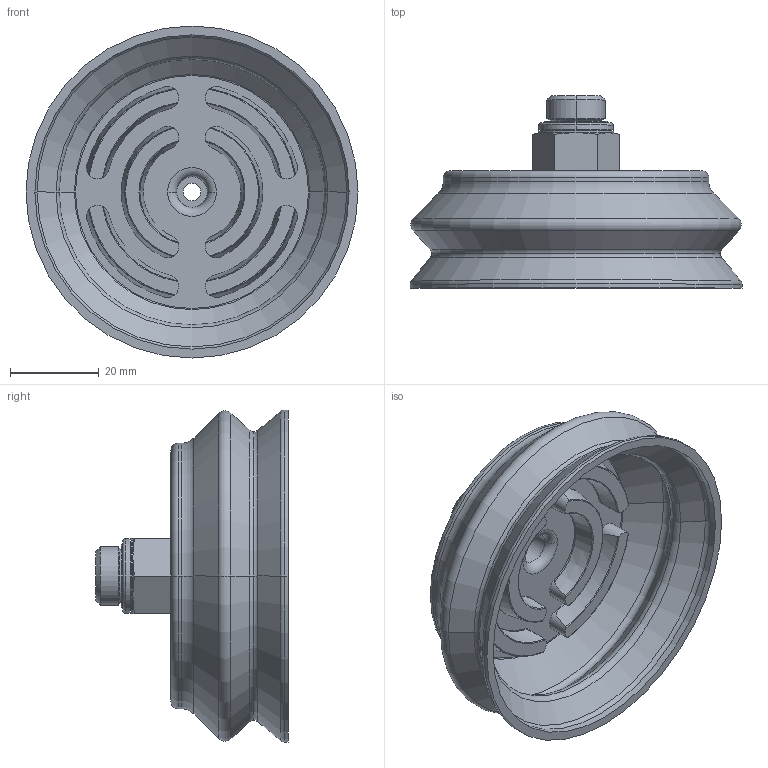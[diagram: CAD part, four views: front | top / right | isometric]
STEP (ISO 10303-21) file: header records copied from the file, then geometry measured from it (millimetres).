
FILE_DESCRIPTION (( 'STEP AP203' ), '1' );
FILE_NAME ('ZASB-75-1_4-PU.STEP', '2022-03-14T17:57:04', ( '' ), ( '' ), 'SwSTEP 2.0', 'SolidWorks 2019', '' );
FILE_SCHEMA (( 'CONFIG_CONTROL_DESIGN' ));
Length unit declared in the file: millimetre
Products named in the file (1): ZASB-75-1_4-PU
Bounding box: 75 x 43.5 x 75 mm (x, y, z)
Volume: 37581.1 mm3; surface area: 21062.3 mm2
Topology: 1 solids, 1 shells, 156 faces, 361 edges, 221 vertices
Faces by surface type: cylinder 52, torus 44, cone 38, plane 22
Entity records: 4931 total; most frequent: CARTESIAN_POINT 1251, DIRECTION 824, ORIENTED_EDGE 722, AXIS2_PLACEMENT_3D 370, EDGE_CURVE 361, VERTEX_POINT 221, CIRCLE 213, EDGE_LOOP 172
